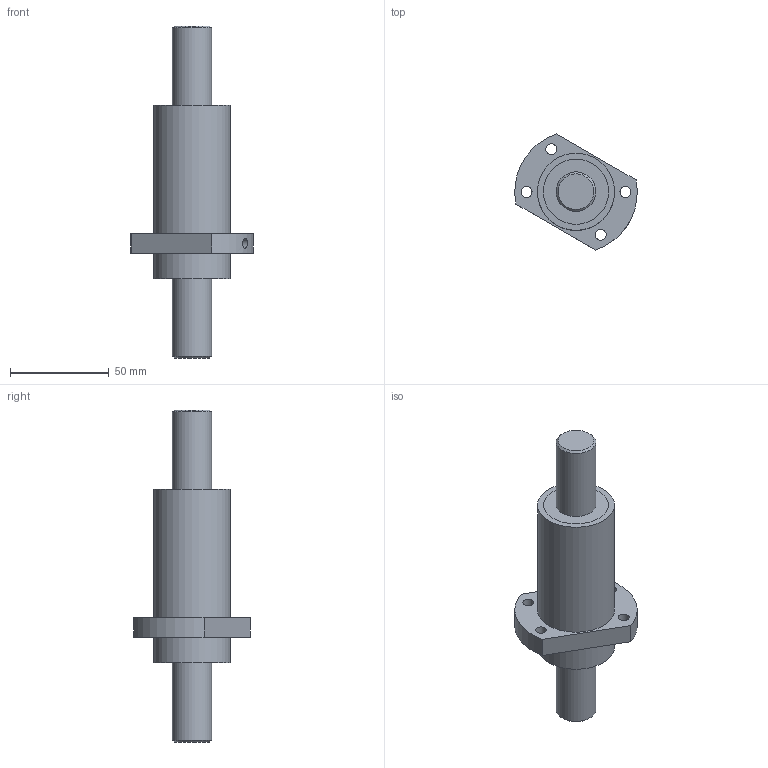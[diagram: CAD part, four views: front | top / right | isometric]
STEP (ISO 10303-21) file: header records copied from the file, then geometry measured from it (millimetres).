
FILE_DESCRIPTION(/* description */ (''),/* implementation_level */ '2;1');
FILE_NAME(/* name */ 'SFY20401.stp',/* time_stamp */ '2014-02-21T10:05:16+08:00',/* author */ (''),/* organization */ (''),/* preprocessor_version */ 'ST-DEVELOPER v11',/* originating_system */ 'SIEMENS UGS NX 6.0',/* authorisation */ '');
FILE_SCHEMA (('CONFIG_CONTROL_DESIGN'));
Length unit declared in the file: millimetre
Products named in the file (1): fann4717bkbt
Bounding box: 61.95 x 58.76 x 168 mm (x, y, z)
Volume: 140539.6 mm3; surface area: 38004.1 mm2
Topology: 4 solids, 4 shells, 52 faces, 95 edges, 65 vertices
Faces by surface type: cylinder 27, plane 23, cone 2
Full cylindrical faces by diameter (mm): 3 x1, 5 x1, 5.5 x4, 20 x4, 30 x4, 33 x4, 34.5 x4, 39 x2
Entity records: 1340 total; most frequent: CARTESIAN_POINT 288, DIRECTION 220, ORIENTED_EDGE 124, EDGE_LOOP 106, AXIS2_PLACEMENT_3D 106, FACE_BOUND 100, EDGE_CURVE 62, VERTEX_POINT 58
